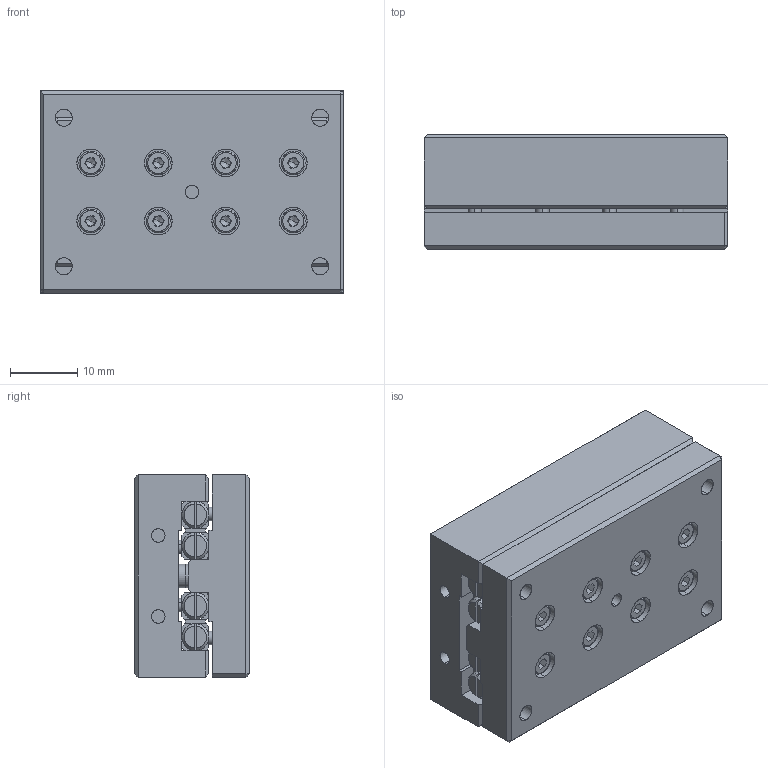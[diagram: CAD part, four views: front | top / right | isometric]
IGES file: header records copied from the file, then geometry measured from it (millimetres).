
Start section: SolidWorks IGES file using analytic representation for surfaces
Global section: file name: C:\Documents and Settings\IanO.IANOHOME\My Documents\Wix and Auto CAD Work\CAD Models\Parametric Models\Auto Models\L1020\L1020_IGES\L1020.030-045.igs; native system: SolidWorks 2009; preprocessor: SolidWorks 2009; author: IanO; date: 110922.161924; units: millimetre
Bounding box: 45 x 17 x 30 mm (x, y, z)
Surface area: 15330.5 mm2 (no closed solid volume)
Topology: 0 solids, 0 shells, 1180 faces, 14096 edges, 14056 vertices
Faces by surface type: bspline 748, revolution 432
